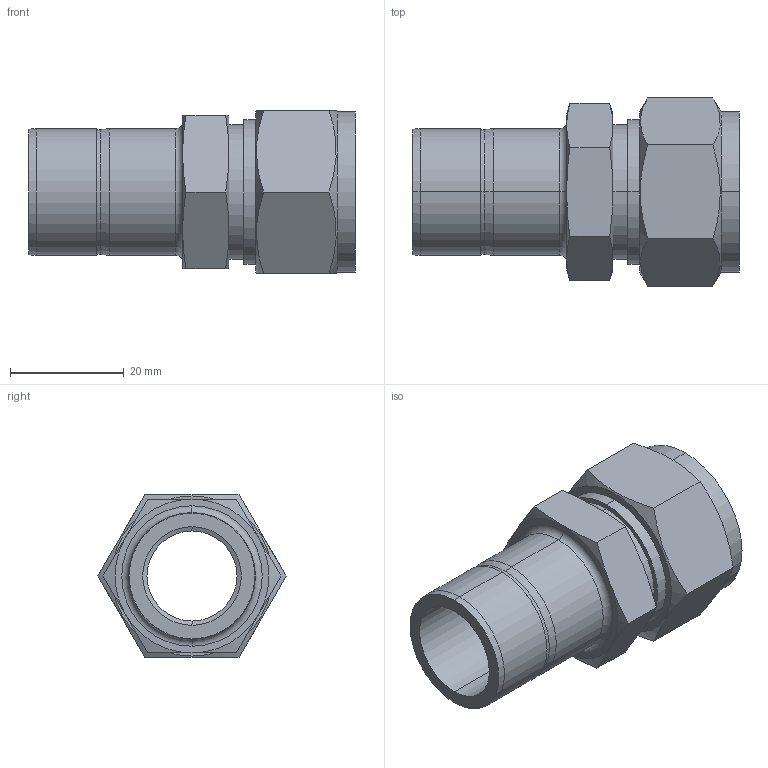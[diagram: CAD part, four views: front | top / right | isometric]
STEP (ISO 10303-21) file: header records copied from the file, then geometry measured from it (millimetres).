
FILE_DESCRIPTION (( 'STEP AP203' ), '1' );
FILE_NAME ('DRE12-14 SS.STEP', '2009-09-08T08:38:50', ( ' ' ), ( '' ), 'SwSTEP 2.0', 'SolidWorks 2008', '' );
FILE_SCHEMA (( 'CONFIG_CONTROL_DESIGN' ));
Length unit declared in the file: millimetre
Products named in the file (1): DRE12-14 SS
Bounding box: 57.3 x 33 x 28.58 mm (x, y, z)
Volume: 15268 mm3; surface area: 9170.1 mm2
Topology: 1 solids, 1 shells, 63 faces, 138 edges, 82 vertices
Faces by surface type: cone 24, plane 19, cylinder 18, torus 2
Entity records: 1965 total; most frequent: CARTESIAN_POINT 540, DIRECTION 282, ORIENTED_EDGE 276, EDGE_CURVE 138, AXIS2_PLACEMENT_3D 120, VERTEX_POINT 82, EDGE_LOOP 70, ADVANCED_FACE 63
